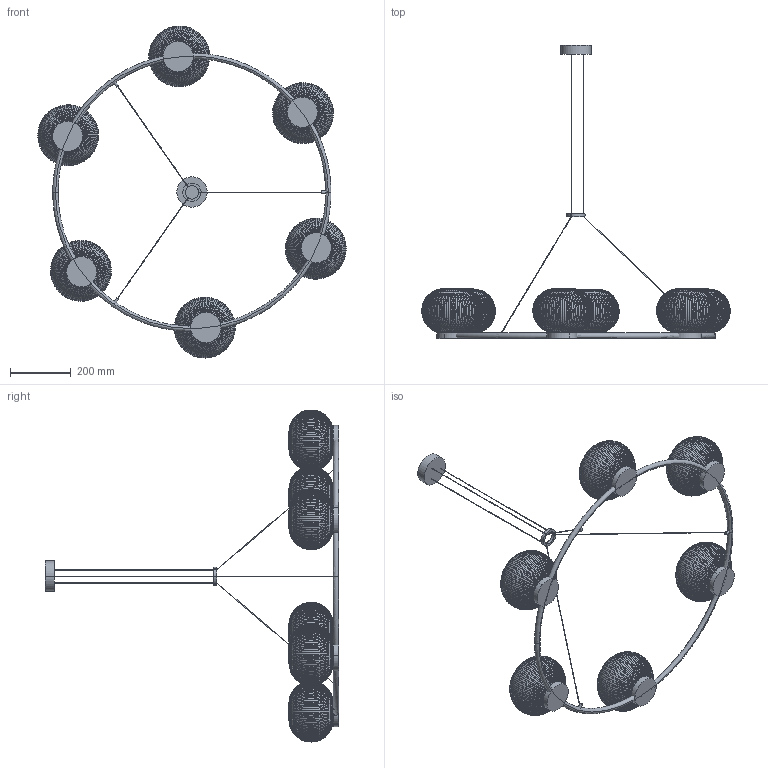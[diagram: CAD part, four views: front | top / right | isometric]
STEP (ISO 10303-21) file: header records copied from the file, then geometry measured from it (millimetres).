
FILE_DESCRIPTION (( 'STEP AP214' ), '1' );
FILE_NAME ('C1353-6.STEP', '2025-12-17T12:34:48', ( '' ), ( '' ), 'SwSTEP 2.0', 'SolidWorks 2023', '' );
FILE_SCHEMA (( 'AUTOMOTIVE_DESIGN' ));
Length unit declared in the file: millimetre
Products named in the file (3): Bola; C1353-6; Ensamblaje2-dadolavuelta
Assembly tree (7 placements, depth 2):
  C1353-6
    Ensamblaje2-dadolavuelta
    Bola  x6
Bounding box: 1017.64 x 967.78 x 1095.5 mm (x, y, z)
Volume: 16089040.7 mm3; surface area: 1314811.3 mm2
Topology: 21 solids, 27 shells, 1601 faces, 3848 edges, 2554 vertices
Faces by surface type: bspline 1561, plane 14, cylinder 14, sphere 12
Entity records: 64367 total; most frequent: CARTESIAN_POINT 59461, ORIENTED_EDGE 1488, EDGE_CURVE 744, VERTEX_POINT 496, B_SPLINE_CURVE_WITH_KNOTS 466, EDGE_LOOP 384, FACE_OUTER_BOUND 331, ADVANCED_FACE 331
